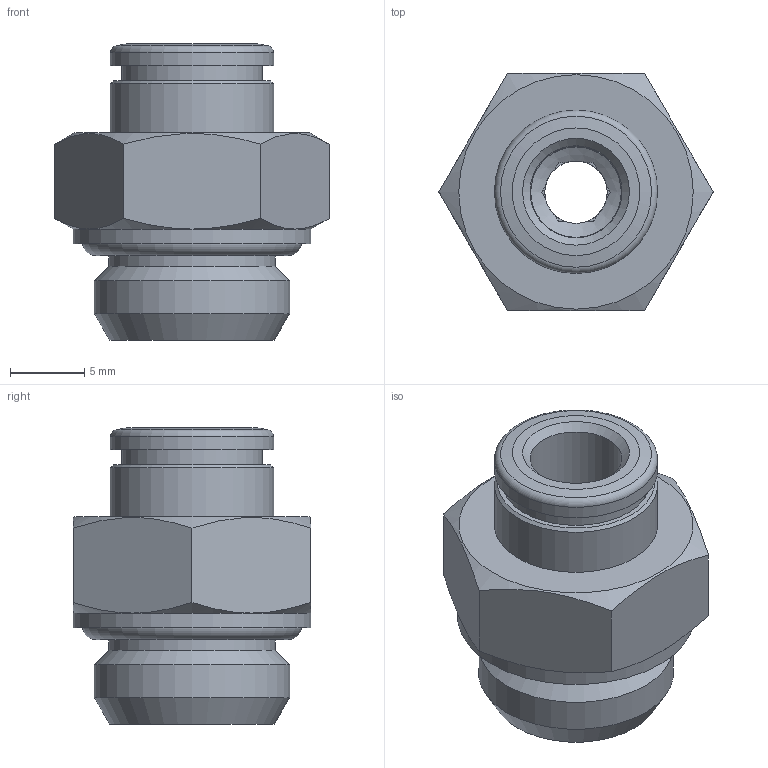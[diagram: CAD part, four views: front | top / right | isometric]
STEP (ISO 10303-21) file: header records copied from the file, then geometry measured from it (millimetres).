
FILE_DESCRIPTION(/* description */ (''),/* implementation_level */ '2;1');
FILE_NAME(/* name */ '200108-ES_STX01_6_G14_28.04.16',/* time_stamp */ '2016-04-28T11:21:21+02:00',/* author */ (''),/* organization */ (''),/* preprocessor_version */ 'ST-DEVELOPER v14',/* originating_system */ 'HiCAD 2013 1802.4 Build 509',/* authorisation */ '');
FILE_SCHEMA (('AUTOMOTIVE_DESIGN { 1 0 10303 214 1 1 1 1 }'));
Length unit declared in the file: millimetre
Products named in the file (4): Root; OR 11.11X1.78; R200108-ES-i1; DR6-1_NEU
Assembly tree (3 placements, depth 2):
  Root
    OR 11.11X1.78
    R200108-ES-i1
    DR6-1_NEU
Bounding box: 18.48 x 16 x 20 mm (x, y, z)
Volume: 2257.1 mm3; surface area: 2413.6 mm2
Topology: 3 solids, 3 shells, 68 faces, 155 edges, 96 vertices
Faces by surface type: plane 33, cone 19, cylinder 12, torus 4
Full cylindrical faces by diameter (mm): 4.2 x1, 6.1 x1, 6.2 x1, 8.3 x1, 9 x1, 9.5 x1, 9.6 x1, 11 x2, 11.2 x1, 13.157 x1, 16 x1
Entity records: 3056 total; most frequent: DIRECTION 350, CARTESIAN_POINT 282, PRESENTATION_STYLE_ASSIGNMENT 249, OVER_RIDING_STYLED_ITEM 246, COLOUR_RGB 241, DRAUGHTING_PRE_DEFINED_CURVE_FONT 238, CURVE_STYLE 238, ORIENTED_EDGE 238
